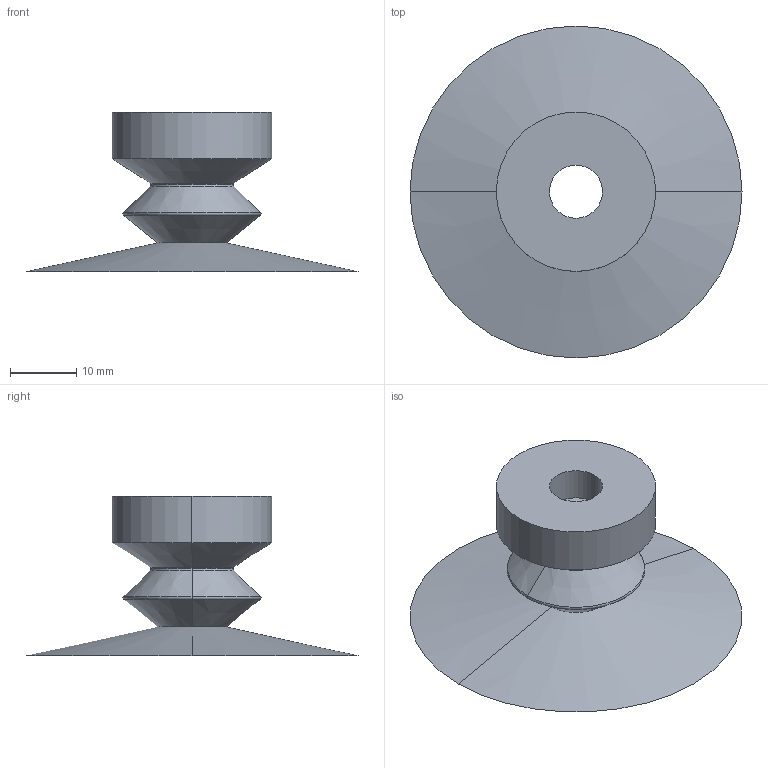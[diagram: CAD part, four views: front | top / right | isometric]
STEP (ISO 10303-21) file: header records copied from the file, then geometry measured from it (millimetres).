
FILE_DESCRIPTION (( 'STEP AP214' ), '1' );
FILE_NAME ('VSH2-M50.STEP', '2019-12-02T06:58:56', ( '微软用户' ), ( '微软中国' ), 'SwSTEP 2.0', 'SolidWorks 2016', '' );
FILE_SCHEMA (( 'AUTOMOTIVE_DESIGN' ));
Length unit declared in the file: millimetre
Products named in the file (1): VSH2-M50
Bounding box: 50 x 50 x 24 mm (x, y, z)
Volume: 2913.5 mm3; surface area: 7520.1 mm2
Topology: 1 solids, 1 shells, 35 faces, 70 edges, 38 vertices
Faces by surface type: cone 16, torus 10, cylinder 6, plane 3
Entity records: 942 total; most frequent: DIRECTION 190, CARTESIAN_POINT 144, ORIENTED_EDGE 140, AXIS2_PLACEMENT_3D 84, EDGE_CURVE 70, CIRCLE 48, VERTEX_POINT 38, EDGE_LOOP 38
